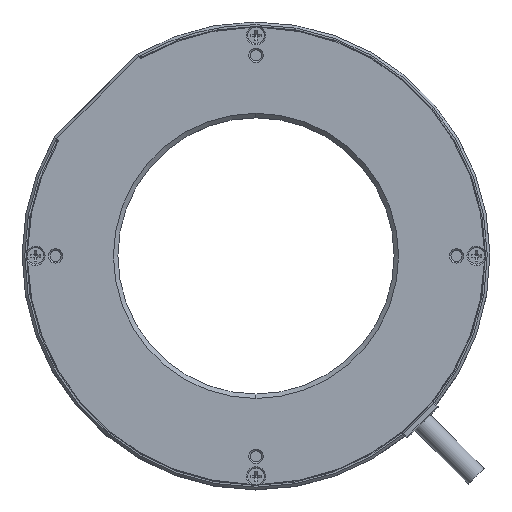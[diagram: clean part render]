
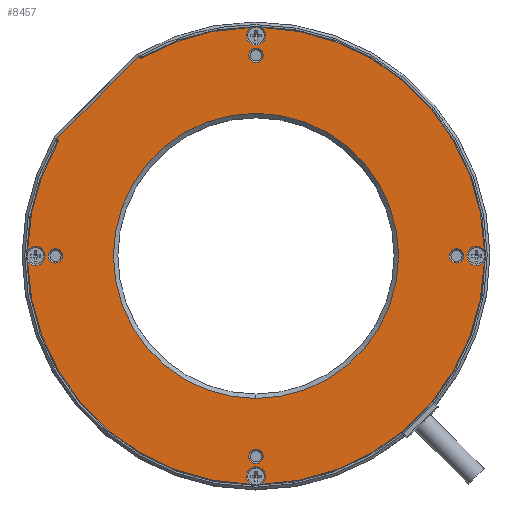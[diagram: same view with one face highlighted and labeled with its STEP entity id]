
A CAD part, top view. The second image highlights one B-rep face of the part: STEP entity #8457.
In plain terms, the highlighted planar face has unit normal (0, 0, 1).
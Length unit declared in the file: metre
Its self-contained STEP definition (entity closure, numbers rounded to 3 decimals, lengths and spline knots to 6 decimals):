
#1391=CARTESIAN_POINT('',(0.,0.,0.003));
#1392=DIRECTION('',(0.,0.,-1.));
#1393=DIRECTION('',(0.,1.,0.));
#1394=AXIS2_PLACEMENT_3D('',#1391,#1392,#1393);
#1396=CARTESIAN_POINT('',(0.,0.,0.003));
#1397=DIRECTION('',(0.,0.,-1.));
#1398=DIRECTION('',(0.,-1.,0.));
#1399=AXIS2_PLACEMENT_3D('',#1396,#1397,#1398);
#1401=CARTESIAN_POINT('',(0.,-0.045,0.003));
#1402=DIRECTION('',(0.,0.,-1.));
#1403=DIRECTION('',(0.,-1.,0.));
#1404=AXIS2_PLACEMENT_3D('',#1401,#1402,#1403);
#1406=CARTESIAN_POINT('',(0.,-0.045,0.003));
#1407=DIRECTION('',(0.,0.,-1.));
#1408=DIRECTION('',(0.,1.,0.));
#1409=AXIS2_PLACEMENT_3D('',#1406,#1407,#1408);
#1411=CARTESIAN_POINT('',(0.045,0.,0.003));
#1412=DIRECTION('',(0.,0.,-1.));
#1413=DIRECTION('',(1.,0.,0.));
#1414=AXIS2_PLACEMENT_3D('',#1411,#1412,#1413);
#1416=CARTESIAN_POINT('',(0.045,0.,0.003));
#1417=DIRECTION('',(0.,0.,-1.));
#1418=DIRECTION('',(-1.,0.,0.));
#1419=AXIS2_PLACEMENT_3D('',#1416,#1417,#1418);
#1421=CARTESIAN_POINT('',(0.,0.045,0.003));
#1422=DIRECTION('',(0.,0.,-1.));
#1423=DIRECTION('',(0.,1.,0.));
#1424=AXIS2_PLACEMENT_3D('',#1421,#1422,#1423);
#1426=CARTESIAN_POINT('',(0.,0.045,0.003));
#1427=DIRECTION('',(0.,0.,-1.));
#1428=DIRECTION('',(0.,-1.,0.));
#1429=AXIS2_PLACEMENT_3D('',#1426,#1427,#1428);
#1431=CARTESIAN_POINT('',(-0.045,0.,0.003));
#1432=DIRECTION('',(0.,0.,-1.));
#1433=DIRECTION('',(-1.,0.,0.));
#1434=AXIS2_PLACEMENT_3D('',#1431,#1432,#1433);
#1436=CARTESIAN_POINT('',(-0.045,0.,0.003));
#1437=DIRECTION('',(0.,0.,-1.));
#1438=DIRECTION('',(1.,0.,0.));
#1439=AXIS2_PLACEMENT_3D('',#1436,#1437,#1438);
#1441=CARTESIAN_POINT('',(0.,0.,0.003));
#1442=DIRECTION('',(0.,0.,1.));
#1443=DIRECTION('',(-0.867,0.498,0.));
#1444=AXIS2_PLACEMENT_3D('',#1441,#1442,#1443);
#1446=CARTESIAN_POINT('',(-0.044908,0.025816,0.003));
#1447=DIRECTION('',(0.,0.,-1.));
#1448=DIRECTION('',(0.707,0.707,0.));
#1449=AXIS2_PLACEMENT_3D('',#1446,#1447,#1448);
#1451=DIRECTION('',(0.707,-0.707,0.));
#1452=VECTOR('',#1451,0.000255);
#1453=CARTESIAN_POINT('',(-0.044735,0.02635,0.003));
#1454=LINE('',#1453,#1452);
#1455=DIRECTION('',(-0.707,-0.707,0.));
#1456=VECTOR('',#1455,0.026);
#1457=CARTESIAN_POINT('',(-0.02635,0.044735,0.003));
#1458=LINE('',#1457,#1456);
#1459=DIRECTION('',(-0.707,0.707,0.));
#1460=VECTOR('',#1459,0.000255);
#1461=CARTESIAN_POINT('',(-0.02617,0.044555,0.003));
#1462=LINE('',#1461,#1460);
#1463=CARTESIAN_POINT('',(-0.025816,0.044908,0.003));
#1464=DIRECTION('',(0.,0.,-1.));
#1465=DIRECTION('',(0.498,-0.867,0.));
#1466=AXIS2_PLACEMENT_3D('',#1463,#1464,#1465);
#1468=CARTESIAN_POINT('',(0.,0.,0.003));
#1469=DIRECTION('',(0.,0.,1.));
#1470=DIRECTION('',(-0.023,1.,0.));
#1471=AXIS2_PLACEMENT_3D('',#1468,#1469,#1470);
#1473=CARTESIAN_POINT('',(0.,0.,0.003));
#1474=DIRECTION('',(0.,0.,1.));
#1475=DIRECTION('',(1.,0.023,0.));
#1476=AXIS2_PLACEMENT_3D('',#1473,#1474,#1475);
#1478=CARTESIAN_POINT('',(0.,0.,0.003));
#1479=DIRECTION('',(0.,0.,1.));
#1480=DIRECTION('',(0.023,-1.,0.));
#1481=AXIS2_PLACEMENT_3D('',#1478,#1479,#1480);
#1483=CARTESIAN_POINT('',(0.,0.,0.003));
#1484=DIRECTION('',(0.,0.,1.));
#1485=DIRECTION('',(-1.,-0.023,0.));
#1486=AXIS2_PLACEMENT_3D('',#1483,#1484,#1485);
#2776=CARTESIAN_POINT('',(-0.0495,0.,0.003));
#2777=DIRECTION('',(0.,0.,-1.));
#2778=DIRECTION('',(-0.831,0.557,0.));
#2779=AXIS2_PLACEMENT_3D('',#2776,#2777,#2778);
#3185=CARTESIAN_POINT('',(0.,-0.0495,0.003));
#3186=DIRECTION('',(0.,0.,-1.));
#3187=DIRECTION('',(-0.557,-0.831,0.));
#3188=AXIS2_PLACEMENT_3D('',#3185,#3186,#3187);
#3609=CARTESIAN_POINT('',(0.0495,0.,0.003));
#3610=DIRECTION('',(0.,0.,-1.));
#3611=DIRECTION('',(0.831,-0.557,0.));
#3612=AXIS2_PLACEMENT_3D('',#3609,#3610,#3611);
#4537=CARTESIAN_POINT('',(0.,0.0495,0.003));
#4538=DIRECTION('',(0.,0.,-1.));
#4539=DIRECTION('',(0.557,0.831,0.));
#4540=AXIS2_PLACEMENT_3D('',#4537,#4538,#4539);
#5158=CARTESIAN_POINT('',(-0.044475,0.025567,0.003));
#5159=CARTESIAN_POINT('',(-0.051286,0.001197,0.003));
#5160=VERTEX_POINT('',#5158);
#5161=VERTEX_POINT('',#5159);
#5162=CARTESIAN_POINT('',(-0.044555,0.02617,0.003));
#5163=VERTEX_POINT('',#5162);
#5164=CARTESIAN_POINT('',(-0.044735,0.02635,0.003));
#5165=VERTEX_POINT('',#5164);
#5166=CARTESIAN_POINT('',(-0.02635,0.044735,0.003));
#5167=VERTEX_POINT('',#5166);
#5168=CARTESIAN_POINT('',(-0.02617,0.044555,0.003));
#5169=VERTEX_POINT('',#5168);
#5170=CARTESIAN_POINT('',(-0.025567,0.044475,0.003));
#5171=VERTEX_POINT('',#5170);
#5172=CARTESIAN_POINT('',(-0.001197,0.051286,0.003));
#5173=VERTEX_POINT('',#5172);
#5174=CARTESIAN_POINT('',(0.051286,0.001197,0.003));
#5175=CARTESIAN_POINT('',(0.001197,0.051286,0.003));
#5176=VERTEX_POINT('',#5174);
#5177=VERTEX_POINT('',#5175);
#5178=CARTESIAN_POINT('',(0.001197,-0.051286,0.003));
#5179=CARTESIAN_POINT('',(0.051286,-0.001197,0.003));
#5180=VERTEX_POINT('',#5178);
#5181=VERTEX_POINT('',#5179);
#5182=CARTESIAN_POINT('',(-0.051286,-0.001197,0.003));
#5183=CARTESIAN_POINT('',(-0.001197,-0.051286,0.003));
#5184=VERTEX_POINT('',#5182);
#5185=VERTEX_POINT('',#5183);
#5186=CARTESIAN_POINT('',(-0.0434,0.,0.003));
#5187=CARTESIAN_POINT('',(-0.0466,0.,0.003));
#5188=VERTEX_POINT('',#5186);
#5189=VERTEX_POINT('',#5187);
#5190=CARTESIAN_POINT('',(0.,0.0434,0.003));
#5191=CARTESIAN_POINT('',(0.,0.0466,0.003));
#5192=VERTEX_POINT('',#5190);
#5193=VERTEX_POINT('',#5191);
#5194=CARTESIAN_POINT('',(0.0434,0.,0.003));
#5195=CARTESIAN_POINT('',(0.0466,0.,0.003));
#5196=VERTEX_POINT('',#5194);
#5197=VERTEX_POINT('',#5195);
#5198=CARTESIAN_POINT('',(0.,-0.0434,0.003));
#5199=CARTESIAN_POINT('',(0.,-0.0466,0.003));
#5200=VERTEX_POINT('',#5198);
#5201=VERTEX_POINT('',#5199);
#5202=CARTESIAN_POINT('',(0.,-0.032,0.003));
#5203=CARTESIAN_POINT('',(0.,0.032,0.003));
#5204=VERTEX_POINT('',#5202);
#5205=VERTEX_POINT('',#5203);
#8394=CARTESIAN_POINT('',(0.,0.,0.003));
#8395=DIRECTION('',(0.,0.,-1.));
#8396=DIRECTION('',(0.,-1.,0.));
#8397=AXIS2_PLACEMENT_3D('',#8394,#8395,#8396);
#8398=PLANE('',#8397);
#8400=ORIENTED_EDGE('',*,*,#8399,.F.);
#8402=ORIENTED_EDGE('',*,*,#8401,.F.);
#8404=ORIENTED_EDGE('',*,*,#8403,.F.);
#8406=ORIENTED_EDGE('',*,*,#8405,.F.);
#8408=ORIENTED_EDGE('',*,*,#8407,.F.);
#8410=ORIENTED_EDGE('',*,*,#8409,.F.);
#8412=ORIENTED_EDGE('',*,*,#8411,.F.);
#8414=ORIENTED_EDGE('',*,*,#8413,.F.);
#8416=ORIENTED_EDGE('',*,*,#8415,.F.);
#8418=ORIENTED_EDGE('',*,*,#8417,.F.);
#8420=ORIENTED_EDGE('',*,*,#8419,.F.);
#8422=ORIENTED_EDGE('',*,*,#8421,.F.);
#8424=ORIENTED_EDGE('',*,*,#8423,.F.);
#8426=ORIENTED_EDGE('',*,*,#8425,.F.);
#8427=EDGE_LOOP('',(#8400,#8402,#8404,#8406,#8408,#8410,#8412,#8414,#8416,#8418,
#8420,#8422,#8424,#8426));
#8428=FACE_OUTER_BOUND('',#8427,.F.);
#8430=ORIENTED_EDGE('',*,*,#8429,.F.);
#8432=ORIENTED_EDGE('',*,*,#8431,.F.);
#8433=EDGE_LOOP('',(#8430,#8432));
#8434=FACE_BOUND('',#8433,.F.);
#8436=ORIENTED_EDGE('',*,*,#8435,.F.);
#8438=ORIENTED_EDGE('',*,*,#8437,.F.);
#8439=EDGE_LOOP('',(#8436,#8438));
#8440=FACE_BOUND('',#8439,.F.);
#8442=ORIENTED_EDGE('',*,*,#8441,.F.);
#8444=ORIENTED_EDGE('',*,*,#8443,.F.);
#8445=EDGE_LOOP('',(#8442,#8444));
#8446=FACE_BOUND('',#8445,.F.);
#8448=ORIENTED_EDGE('',*,*,#8447,.F.);
#8450=ORIENTED_EDGE('',*,*,#8449,.F.);
#8451=EDGE_LOOP('',(#8448,#8450));
#8452=FACE_BOUND('',#8451,.F.);
#8453=ORIENTED_EDGE('',*,*,#8387,.F.);
#8454=ORIENTED_EDGE('',*,*,#8373,.F.);
#8455=EDGE_LOOP('',(#8453,#8454));
#8456=FACE_BOUND('',#8455,.F.);
#8457=ADVANCED_FACE('',(#8428,#8434,#8440,#8446,#8452,#8456),#8398,.F.);
#1395=CIRCLE('',#1394,0.032);
#1400=CIRCLE('',#1399,0.032);
#1405=CIRCLE('',#1404,0.0016);
#1410=CIRCLE('',#1409,0.0016);
#1415=CIRCLE('',#1414,0.0016);
#1420=CIRCLE('',#1419,0.0016);
#1425=CIRCLE('',#1424,0.0016);
#1430=CIRCLE('',#1429,0.0016);
#1435=CIRCLE('',#1434,0.0016);
#1440=CIRCLE('',#1439,0.0016);
#1445=CIRCLE('',#1444,0.0513);
#1450=CIRCLE('',#1449,0.0005);
#1467=CIRCLE('',#1466,0.0005);
#1472=CIRCLE('',#1471,0.0513);
#1477=CIRCLE('',#1476,0.0513);
#1482=CIRCLE('',#1481,0.0513);
#1487=CIRCLE('',#1486,0.0513);
#2780=CIRCLE('',#2779,0.00215);
#3189=CIRCLE('',#3188,0.00215);
#3613=CIRCLE('',#3612,0.00215);
#4541=CIRCLE('',#4540,0.00215);
#8373=EDGE_CURVE('',#5204,#5205,#1400,.T.);
#8387=EDGE_CURVE('',#5205,#5204,#1395,.T.);
#8399=EDGE_CURVE('',#5161,#5184,#2780,.T.);
#8401=EDGE_CURVE('',#5160,#5161,#1445,.T.);
#8403=EDGE_CURVE('',#5163,#5160,#1450,.T.);
#8405=EDGE_CURVE('',#5165,#5163,#1454,.T.);
#8407=EDGE_CURVE('',#5167,#5165,#1458,.T.);
#8409=EDGE_CURVE('',#5169,#5167,#1462,.T.);
#8411=EDGE_CURVE('',#5171,#5169,#1467,.T.);
#8413=EDGE_CURVE('',#5173,#5171,#1472,.T.);
#8415=EDGE_CURVE('',#5177,#5173,#4541,.T.);
#8417=EDGE_CURVE('',#5176,#5177,#1477,.T.);
#8419=EDGE_CURVE('',#5181,#5176,#3613,.T.);
#8421=EDGE_CURVE('',#5180,#5181,#1482,.T.);
#8423=EDGE_CURVE('',#5185,#5180,#3189,.T.);
#8425=EDGE_CURVE('',#5184,#5185,#1487,.T.);
#8429=EDGE_CURVE('',#5201,#5200,#1405,.T.);
#8431=EDGE_CURVE('',#5200,#5201,#1410,.T.);
#8435=EDGE_CURVE('',#5197,#5196,#1415,.T.);
#8437=EDGE_CURVE('',#5196,#5197,#1420,.T.);
#8441=EDGE_CURVE('',#5193,#5192,#1425,.T.);
#8443=EDGE_CURVE('',#5192,#5193,#1430,.T.);
#8447=EDGE_CURVE('',#5189,#5188,#1435,.T.);
#8449=EDGE_CURVE('',#5188,#5189,#1440,.T.);
